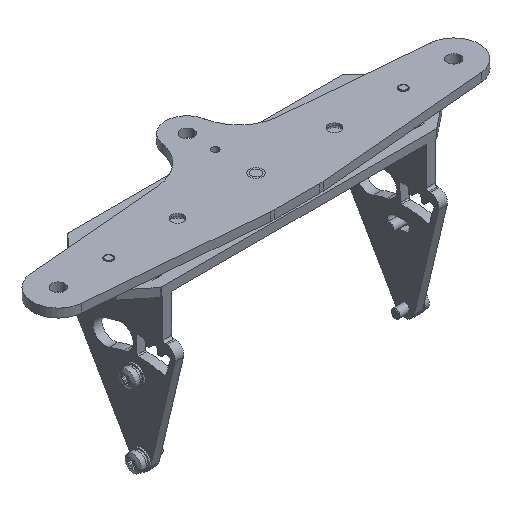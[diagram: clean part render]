
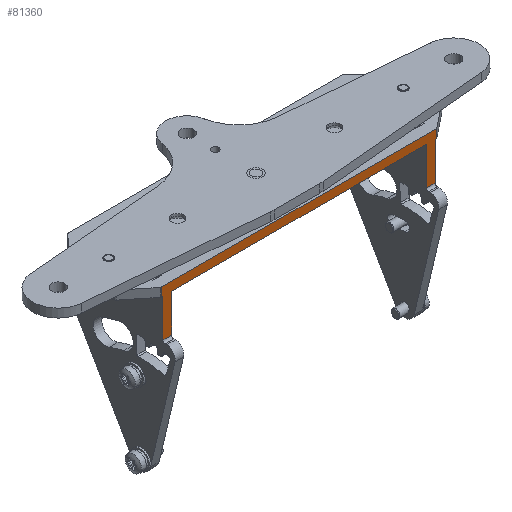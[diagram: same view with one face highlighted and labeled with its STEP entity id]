
A CAD part, isometric view. The second image highlights one B-rep face of the part: STEP entity #81360.
In plain terms, the highlighted planar face has unit normal (0, -1, 0) as drawn and (0, 1, 0) by its records, which use the part's own axes.
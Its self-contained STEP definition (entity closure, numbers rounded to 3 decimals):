
#44650=CARTESIAN_POINT('',(-7.25,41.644,
-0.68));
#44660=VERTEX_POINT('',#44650);
#44690=CARTESIAN_POINT('',(0.,41.644,
-0.68));
#44700=DIRECTION('',(-1.,0.,0.));
#44710=VECTOR('',#44700,1.);
#44720=LINE('',#44690,#44710);
#44730=CARTESIAN_POINT('',(111.35,41.644,-0.68));
#44740=VERTEX_POINT('',#44730);
#44750=EDGE_CURVE('',#44740,#44660,#44720,.T.);
#50140=CARTESIAN_POINT('',(115.799,41.644,
-4.68));
#50150=VERTEX_POINT('',#50140);
#50180=CARTESIAN_POINT('',(115.799,41.644,-4.68
));
#50190=DIRECTION('',(-1.,0.,0.));
#50200=VECTOR('',#50190,1.);
#50210=LINE('',#50180,#50200);
#50220=CARTESIAN_POINT('',(-11.699,41.644,
-4.68));
#50230=VERTEX_POINT('',#50220);
#50240=EDGE_CURVE('',#50150,#50230,#50210,.T.);
#56790=CARTESIAN_POINT('',(-7.25,41.644,
16.978));
#56800=VERTEX_POINT('',#56790);
#56830=CARTESIAN_POINT('',(-7.25,41.644,
48.804));
#56840=DIRECTION('',(0.,0.,-1.));
#56850=VECTOR('',#56840,1.);
#56860=LINE('',#56830,#56850);
#56870=EDGE_CURVE('',#56800,#44660,#56860,.T.);
#60720=CARTESIAN_POINT('',(-11.25,41.644,
-0.68));
#60730=VERTEX_POINT('',#60720);
#60760=CARTESIAN_POINT('',(-11.25,41.644,
48.804));
#60770=DIRECTION('',(0.,0.,-1.));
#60780=VECTOR('',#60770,1.);
#60790=LINE('',#60760,#60780);
#60800=CARTESIAN_POINT('',(-11.25,41.644,
16.978));
#60810=VERTEX_POINT('',#60800);
#60820=EDGE_CURVE('',#60810,#60730,#60790,.T.);
#68930=CARTESIAN_POINT('',(115.35,41.644,-0.68));
#68940=VERTEX_POINT('',#68930);
#68970=CARTESIAN_POINT('',(115.799,41.644,
-0.68));
#68980=VERTEX_POINT('',#68970);
#68990=EDGE_CURVE('',#68980,#68940,#44720,.T.);
#75410=CARTESIAN_POINT('',(115.35,41.644,16.978));
#75420=VERTEX_POINT('',#75410);
#75450=CARTESIAN_POINT('',(115.35,41.644,48.804));
#75460=DIRECTION('',(0.,0.,-1.));
#75470=VECTOR('',#75460,1.);
#75480=LINE('',#75450,#75470);
#75490=EDGE_CURVE('',#75420,#68940,#75480,.T.);
#78590=CARTESIAN_POINT('',(111.35,41.644,48.804));
#78600=DIRECTION('',(0.,0.,-1.));
#78610=VECTOR('',#78600,1.);
#78620=LINE('',#78590,#78610);
#78630=CARTESIAN_POINT('',(111.35,41.644,16.978));
#78640=VERTEX_POINT('',#78630);
#78650=EDGE_CURVE('',#78640,#44740,#78620,.T.);
#80940=CARTESIAN_POINT('',(-11.699,41.644,
-0.68));
#80950=DIRECTION('',(0.,-1.,0.));
#80960=DIRECTION('',(-1.,0.,0.));
#80970=AXIS2_PLACEMENT_3D('',#80940,#80950,#80960);
#80980=PLANE('',#80970);
#80990=ORIENTED_EDGE('',*,*,#50240,.T.);
#81000=CARTESIAN_POINT('',(115.799,41.644,0.));
#81010=DIRECTION('',(0.,0.,1.));
#81020=VECTOR('',#81010,1.);
#81030=LINE('',#81000,#81020);
#81040=EDGE_CURVE('',#50150,#68980,#81030,.T.);
#81050=ORIENTED_EDGE('',*,*,#81040,.F.);
#81060=ORIENTED_EDGE('',*,*,#68990,.F.);
#81070=ORIENTED_EDGE('',*,*,#75490,.T.);
#81080=CARTESIAN_POINT('',(0.,41.644,
16.978));
#81090=DIRECTION('',(1.,0.,0.));
#81100=VECTOR('',#81090,1.);
#81110=LINE('',#81080,#81100);
#81120=EDGE_CURVE('',#78640,#75420,#81110,.T.);
#81130=ORIENTED_EDGE('',*,*,#81120,.T.);
#81140=ORIENTED_EDGE('',*,*,#78650,.F.);
#81150=ORIENTED_EDGE('',*,*,#44750,.F.);
#81160=ORIENTED_EDGE('',*,*,#56870,.T.);
#81170=CARTESIAN_POINT('',(0.,41.644,
16.978));
#81180=DIRECTION('',(-1.,0.,0.));
#81190=VECTOR('',#81180,1.);
#81200=LINE('',#81170,#81190);
#81210=EDGE_CURVE('',#56800,#60810,#81200,.T.);
#81220=ORIENTED_EDGE('',*,*,#81210,.F.);
#81230=ORIENTED_EDGE('',*,*,#60820,.F.);
#81240=CARTESIAN_POINT('',(-11.699,41.644,
-0.68));
#81250=VERTEX_POINT('',#81240);
#81260=EDGE_CURVE('',#60730,#81250,#44720,.T.);
#81270=ORIENTED_EDGE('',*,*,#81260,.F.);
#81280=CARTESIAN_POINT('',(-11.699,41.644,0.));
#81290=DIRECTION('',(0.,0.,1.));
#81300=VECTOR('',#81290,1.);
#81310=LINE('',#81280,#81300);
#81320=EDGE_CURVE('',#50230,#81250,#81310,.T.);
#81330=ORIENTED_EDGE('',*,*,#81320,.T.);
#81340=EDGE_LOOP('',(#81330,#81270,#81230,#81220,#81160,#81150,#81140,
#81130,#81070,#81060,#81050,#80990));
#81350=FACE_OUTER_BOUND('',#81340,.T.);
#81360=ADVANCED_FACE('',(#81350),#80980,.F.);
